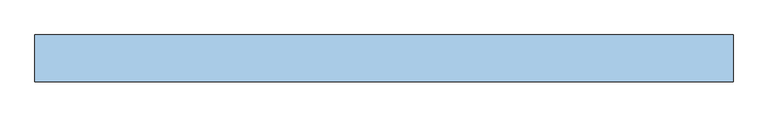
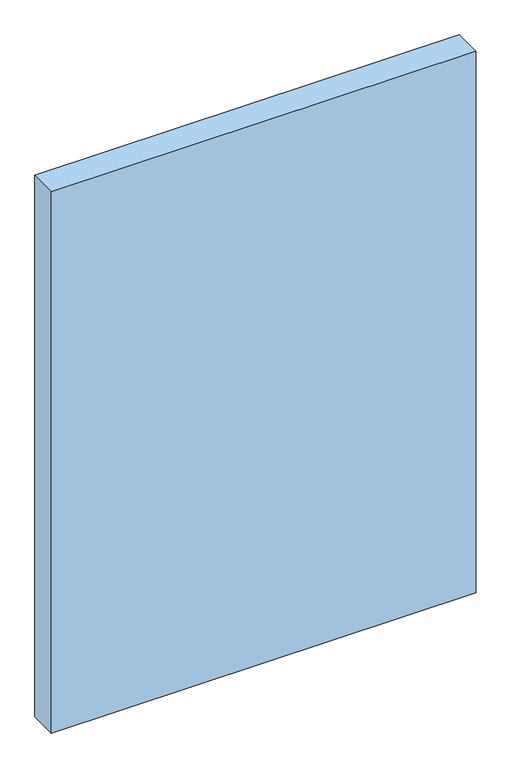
"""IFC4 building model written with IfcOpenShell, lengths in millimetres: window geometry, Dr_Проем-Четверти_окно : ОК."""

from ifc_helpers import new_model, si_unit, frame, origin, place, context, project, spatial, polyline, outline, extrude, source, transform, mapped, element, save


def window_51d1c7a4(model_context):
    return source(origin(), model_context, "Body", "SweptSolid", [
        extrude(outline(polyline([(1255.0, -50.0), (-985.0, -50.0), (-985.0, 100.0), (1255.0, 100.0), (1255.0, -50.0)])), frame((0.0, 0.0, -60.0), z_axis=(0.0, 0.0, 1.0), x_axis=(1.0, 0.0, 0.0)), (0.0, 0.0, 1.0), 3020.0),
    ])


if __name__ == "__main__":
    model = new_model("IFC4")
    model_context = context("Model", 3, world=origin())
    ifc_project = project(units=[si_unit("LENGTHUNIT", "METRE", prefix="MILLI")], contexts=[model_context])
    site = spatial("IfcSite", under=ifc_project)
    building = spatial("IfcBuilding", under=site)
    placement = place(None, origin())
    window_shape = window_51d1c7a4(model_context)
    element("IfcWindow", 1, ObjectType="Dr_Проем-Четверти_окно : ОК", at=placement, inside=building, context=model_context, shape_type="MappedRepresentation", body=[
        mapped(window_shape, transform((0.0, 0.0, 0.0), x_axis=(1.0, 0.0, 0.0), y_axis=(0.0, 1.0, 0.0), z_axis=(0.0, 0.0, 1.0))),
    ])
    save(model, "model.ifc")
